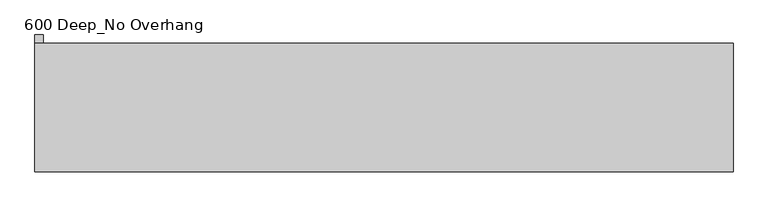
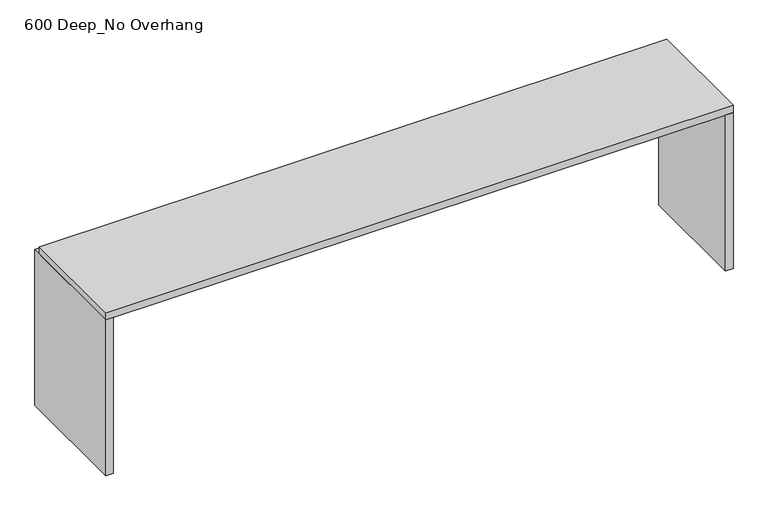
"""IFC4 building model written with IfcOpenShell, lengths in millimetres: furniture geometry, Benchtop_Optional Hole_I Shaped_CAS : 600 Deep_No Overhang."""

from ifc_helpers import new_model, si_unit, frame, origin, origin_with_axes, place, context, project, spatial, polyline, outline, extrude, source, transform, mapped, element, save


def furniture_600_deep_no_overhang_a952605c(model_context):
    return source(origin(), model_context, "Body", "SweptSolid", [
        extrude(outline(polyline([(2073.432249, -600.0), (2073.432249, 0.0), (2113.432249, 0.0), (2113.432249, -600.0), (2073.432249, -600.0)])), origin_with_axes(), (0.0, 0.0, 1.0), 860.0),
        extrude(outline(polyline([(-1115.2996736, 40.0), (-1115.2996736, -600.0), (-1155.2996736, -600.0), (-1155.2996736, 40.0), (-1115.2996736, 40.0)])), origin_with_axes(), (0.0, 0.0, 1.0), 860.0),
        extrude(outline(polyline([(2113.432249, 0.0), (2113.432249, -600.0), (-1155.2996736, -600.0), (-1155.2996736, 0.0), (2113.432249, 0.0)])), frame((0.0, 0.0, 860.0), z_axis=(0.0, 0.0, 1.0), x_axis=(1.0, 0.0, 0.0)), (0.0, 0.0, 1.0), 40.0),
    ])


if __name__ == "__main__":
    model = new_model("IFC4")
    model_context = context("Model", 3, world=origin())
    ifc_project = project(units=[si_unit("LENGTHUNIT", "METRE", prefix="MILLI")], contexts=[model_context])
    site = spatial("IfcSite", under=ifc_project)
    building = spatial("IfcBuilding", under=site)
    placement = place(None, origin())
    furniture_600_deep_no_overhang_shape = furniture_600_deep_no_overhang_a952605c(model_context)
    element("IfcFurniture", 1, ObjectType="Benchtop_Optional Hole_I Shaped_CAS : 600 Deep_No Overhang", at=placement, inside=building, context=model_context, shape_type="MappedRepresentation", body=[
        mapped(furniture_600_deep_no_overhang_shape, transform((0.0, 0.0, 0.0), x_axis=(1.0, 0.0, 0.0), y_axis=(0.0, 1.0, 0.0), z_axis=(0.0, 0.0, 1.0))),
    ])
    save(model, "model.ifc")
